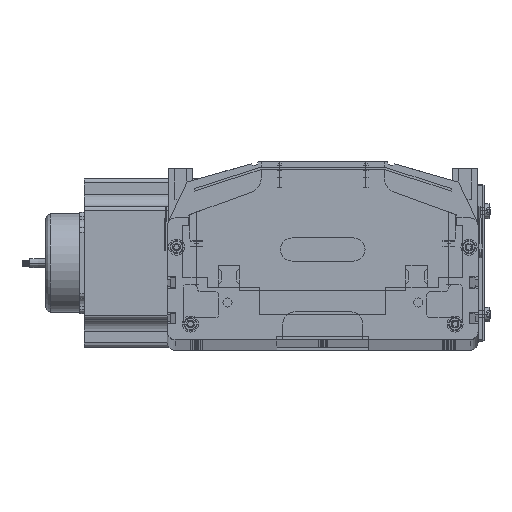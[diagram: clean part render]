
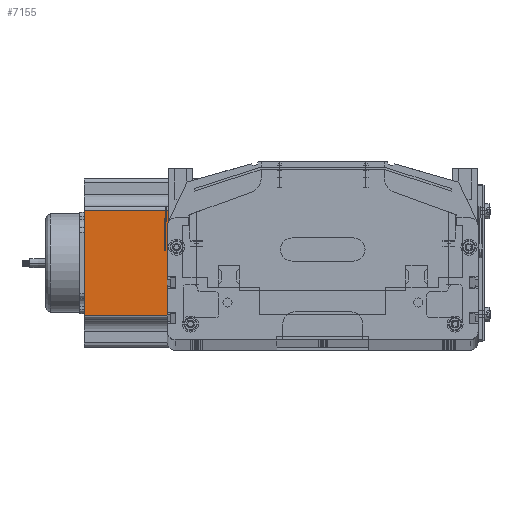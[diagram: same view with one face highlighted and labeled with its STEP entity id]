
A CAD part, top view. The second image highlights one B-rep face of the part: STEP entity #7155.
In plain terms, the highlighted planar face has unit normal (0, 0, 1) as drawn and (0, -1, 0) by its records, which use the part's own axes.
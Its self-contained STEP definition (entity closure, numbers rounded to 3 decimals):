
#7152 = VERTEX_POINT ( 'NONE', #54758 ) ;
#7155 = ADVANCED_FACE ( 'NONE', ( #54796 ), #54759, .F. ) ;
#7157 = ORIENTED_EDGE ( 'NONE', *, *, #7279, .T. ) ;
#7158 = EDGE_CURVE ( 'NONE', #7286, #7307, #54753, .T. ) ;
#7159 = EDGE_CURVE ( 'NONE', #7161, #7286, #54952, .T. ) ;
#7160 = EDGE_CURVE ( 'NONE', #7161, #7152, #54948, .T. ) ;
#7161 = VERTEX_POINT ( 'NONE', #54947 ) ;
#7163 = ORIENTED_EDGE ( 'NONE', *, *, #7160, .F. ) ;
#7174 = ORIENTED_EDGE ( 'NONE', *, *, #7158, .T. ) ;
#7180 = EDGE_LOOP ( 'NONE', ( #7174, #7157, #7163, #7313 ) ) ;
#7279 = EDGE_CURVE ( 'NONE', #7307, #7152, #55022, .T. ) ;
#7286 = VERTEX_POINT ( 'NONE', #55018 ) ;
#7307 = VERTEX_POINT ( 'NONE', #55351 ) ;
#7313 = ORIENTED_EDGE ( 'NONE', *, *, #7159, .T. ) ;
#54752 = CARTESIAN_POINT ( 'NONE',  ( 0., 0., 0. ) ) ;
#54753 = LINE ( 'NONE', #54752, #54954 ) ;
#54757 = DIRECTION ( 'NONE',  ( 0., 1., 0. ) ) ;
#54758 = CARTESIAN_POINT ( 'NONE',  ( 88.952, 0., 160.5 ) ) ;
#54759 = PLANE ( 'NONE',  #54788 ) ;
#54786 = DIRECTION ( 'NONE',  ( 0., 0., 1. ) ) ;
#54788 = AXIS2_PLACEMENT_3D ( 'NONE', #54794, #54757, #54786 ) ;
#54794 = CARTESIAN_POINT ( 'NONE',  ( 0., 0., 160.5 ) ) ;
#54796 = FACE_OUTER_BOUND ( 'NONE', #7180, .T. ) ;
#54944 = DIRECTION ( 'NONE',  ( 1., 0., 0. ) ) ;
#54945 = VECTOR ( 'NONE', #54944, 1000. ) ;
#54946 = CARTESIAN_POINT ( 'NONE',  ( 0., 0., 160.5 ) ) ;
#54947 = CARTESIAN_POINT ( 'NONE',  ( 21.048, 0., 160.5 ) ) ;
#54948 = LINE ( 'NONE', #54946, #54945 ) ;
#54949 = DIRECTION ( 'NONE',  ( 0., 0., -1. ) ) ;
#54950 = VECTOR ( 'NONE', #54949, 1000. ) ;
#54951 = CARTESIAN_POINT ( 'NONE',  ( 21.048, 0., 160.5 ) ) ;
#54952 = LINE ( 'NONE', #54951, #54950 ) ;
#54953 = DIRECTION ( 'NONE',  ( 1., 0., 0. ) ) ;
#54954 = VECTOR ( 'NONE', #54953, 1000. ) ;
#55018 = CARTESIAN_POINT ( 'NONE',  ( 21.048, 0., 0. ) ) ;
#55021 = CARTESIAN_POINT ( 'NONE',  ( 88.952, 0., 160.5 ) ) ;
#55022 = LINE ( 'NONE', #55021, #55070 ) ;
#55069 = DIRECTION ( 'NONE',  ( 0., 0., 1. ) ) ;
#55070 = VECTOR ( 'NONE', #55069, 1000. ) ;
#55351 = CARTESIAN_POINT ( 'NONE',  ( 88.952, 0., 0. ) ) ;
